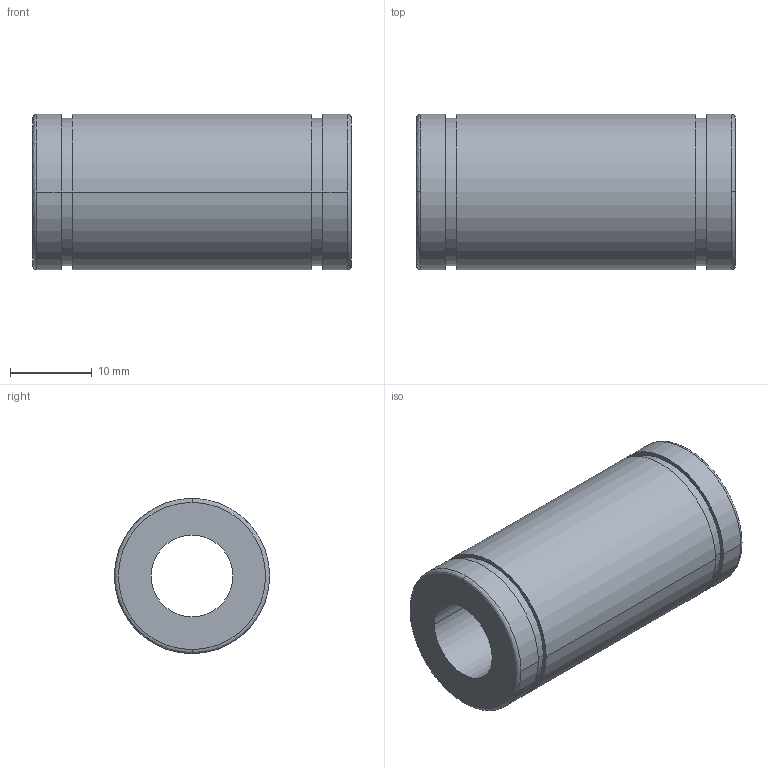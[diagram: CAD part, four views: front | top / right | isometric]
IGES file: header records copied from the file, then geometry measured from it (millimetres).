
Start section: 3D InterOp IGES (Version 21 0 1), Spatial Corp. Copyright (c) 1999-2007.
Global section: file name: N-10VM.igs; native system: Spatial Corp.; preprocessor: 3D InterOp GENERIC/IGES 3.0; author: Noname; organization: Noname; date: 20220516.092756; units: millimetre
Bounding box: 39 x 19 x 19 mm (x, y, z)
Surface area: 4045 mm2 (no closed solid volume)
Topology: 0 solids, 0 shells, 22 faces, 100 edges, 100 vertices
Faces by surface type: revolution 16, extrusion 6
